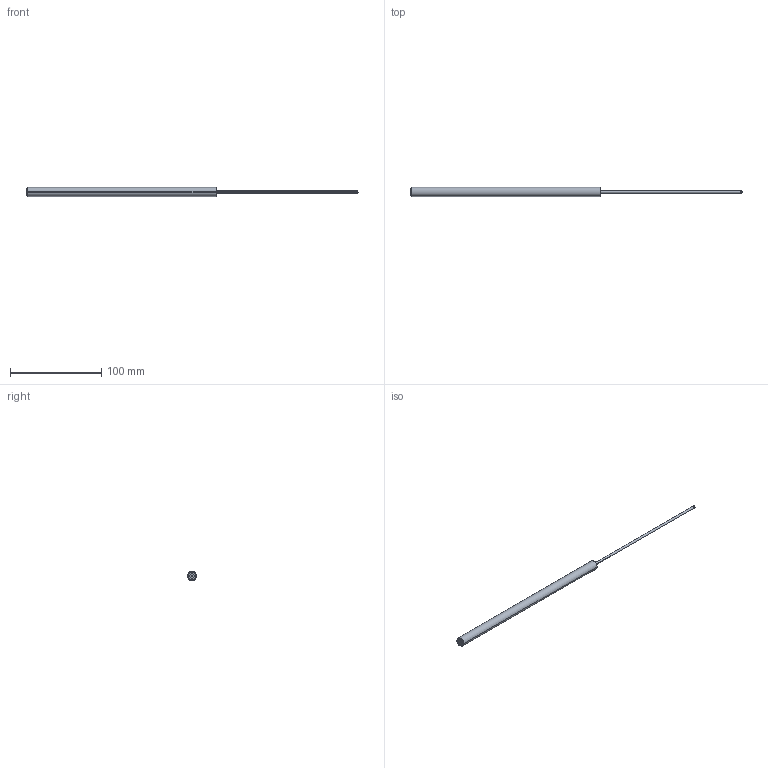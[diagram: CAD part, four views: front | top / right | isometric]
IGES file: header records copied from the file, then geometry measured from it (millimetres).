
Start section: SolidWorks IGES file using analytic representation for surfaces
Global section: file name: Z:\4-個保管\神長\FPD-10150B-SW.IGS; native system: SolidWorks 2018; preprocessor: SolidWorks 2018; author: flgijutsu02; date: 190313.112739; units: millimetre
Bounding box: 363.3 x 10 x 10 mm (x, y, z)
Surface area: 8002.7 mm2 (no closed solid volume)
Topology: 0 solids, 0 shells, 55 faces, 648 edges, 642 vertices
Faces by surface type: revolution 38, bspline 17
